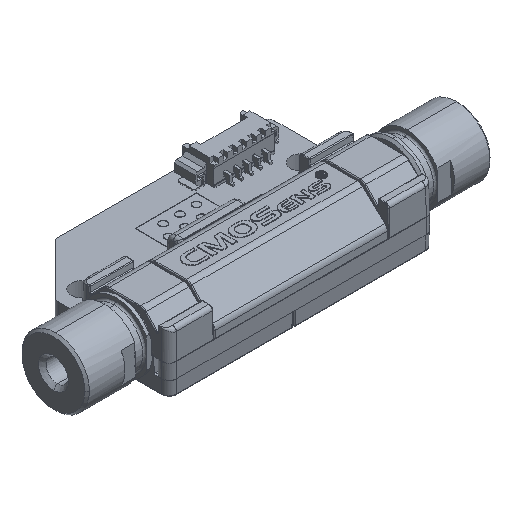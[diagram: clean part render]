
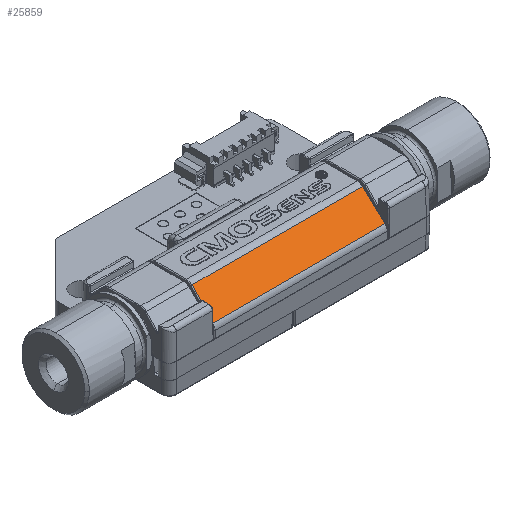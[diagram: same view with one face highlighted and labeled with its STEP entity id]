
A CAD part, isometric view. The second image highlights one B-rep face of the part: STEP entity #25859.
In plain terms, the highlighted planar face has unit normal (0, -0.707, 0.707).
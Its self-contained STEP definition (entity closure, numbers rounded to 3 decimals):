
#1861 = DIRECTION ( 'NONE',  ( 0.019, -0.707, -0.707 ) ) ;
#5438 = EDGE_CURVE ( 'NONE', #16835, #29889, #17572, .T. ) ;
#6066 = B_SPLINE_CURVE_WITH_KNOTS ( 'NONE', 3,
 ( #23133, #39661, #7054, #51779 ),
 .UNSPECIFIED., .F., .F.,
 ( 4, 4 ),
 ( 0., 1. ),
 .UNSPECIFIED. ) ;
#6215 = CARTESIAN_POINT ( 'NONE',  ( 11.475, -5.679, 3.851 ) ) ;
#7041 = EDGE_CURVE ( 'NONE', #40283, #24347, #21095, .T. ) ;
#7054 = CARTESIAN_POINT ( 'NONE',  ( -11.285, -3.762, 5.768 ) ) ;
#7517 = EDGE_LOOP ( 'NONE', ( #8496, #35031, #49332, #34433 ) ) ;
#8496 = ORIENTED_EDGE ( 'NONE', *, *, #52582, .F. ) ;
#8703 = VECTOR ( 'NONE', #16614, 1000. ) ;
#9562 = VECTOR ( 'NONE', #1861, 1000. ) ;
#12110 = CARTESIAN_POINT ( 'NONE',  ( 11.475, -2.803, 6.727 ) ) ;
#15445 = FACE_OUTER_BOUND ( 'NONE', #7517, .T. ) ;
#16614 = DIRECTION ( 'NONE',  ( 1., 0., 0. ) ) ;
#16835 = VERTEX_POINT ( 'NONE', #30564 ) ;
#17572 = LINE ( 'NONE', #40926, #8703 ) ;
#18491 = CARTESIAN_POINT ( 'NONE',  ( 11.26, -2.803, 6.727 ) ) ;
#20298 = LINE ( 'NONE', #18491, #9562 ) ;
#21095 = LINE ( 'NONE', #6215, #24901 ) ;
#21851 = AXIS2_PLACEMENT_3D ( 'NONE', #12110, #48663, #28196 ) ;
#23133 = CARTESIAN_POINT ( 'NONE',  ( -11.335, -5.679, 3.851 ) ) ;
#24347 = VERTEX_POINT ( 'NONE', #27720 ) ;
#24901 = VECTOR ( 'NONE', #38496, 1000. ) ;
#25859 = ADVANCED_FACE ( 'NONE', ( #15445 ), #40268, .F. ) ;
#26588 = CARTESIAN_POINT ( 'NONE',  ( 11.26, -2.803, 6.727 ) ) ;
#26653 = EDGE_CURVE ( 'NONE', #29889, #40283, #20298, .T. ) ;
#27720 = CARTESIAN_POINT ( 'NONE',  ( -11.335, -5.679, 3.851 ) ) ;
#28196 = DIRECTION ( 'NONE',  ( 0., 0.707, 0.707 ) ) ;
#28321 = CARTESIAN_POINT ( 'NONE',  ( 11.335, -5.679, 3.851 ) ) ;
#29889 = VERTEX_POINT ( 'NONE', #26588 ) ;
#30564 = CARTESIAN_POINT ( 'NONE',  ( -11.26, -2.803, 6.727 ) ) ;
#34433 = ORIENTED_EDGE ( 'NONE', *, *, #5438, .F. ) ;
#35031 = ORIENTED_EDGE ( 'NONE', *, *, #7041, .F. ) ;
#38496 = DIRECTION ( 'NONE',  ( -1., 0., 0. ) ) ;
#39661 = CARTESIAN_POINT ( 'NONE',  ( -11.31, -4.72, 4.81 ) ) ;
#40268 = PLANE ( 'NONE',  #21851 ) ;
#40283 = VERTEX_POINT ( 'NONE', #28321 ) ;
#40926 = CARTESIAN_POINT ( 'NONE',  ( 11.475, -2.803, 6.727 ) ) ;
#48663 = DIRECTION ( 'NONE',  ( 0., 0.707, -0.707 ) ) ;
#49332 = ORIENTED_EDGE ( 'NONE', *, *, #26653, .F. ) ;
#51779 = CARTESIAN_POINT ( 'NONE',  ( -11.26, -2.803, 6.727 ) ) ;
#52582 = EDGE_CURVE ( 'NONE', #24347, #16835, #6066, .T. ) ;
